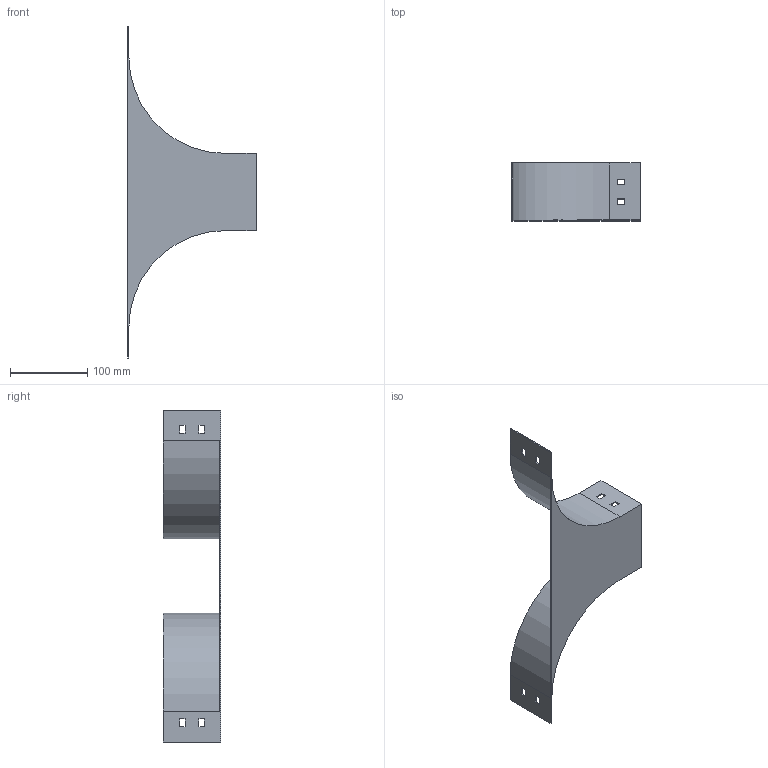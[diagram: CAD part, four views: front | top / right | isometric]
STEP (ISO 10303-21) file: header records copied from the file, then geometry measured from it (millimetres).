
FILE_DESCRIPTION (( 'STEP AP214' ), '1' );
FILE_NAME ('RL_107.step', '2025-07-16T09:24:46', ( '' ), ( '' ), 'SwSTEP 2.0', 'SolidWorks 2023', '' );
FILE_SCHEMA (( 'AUTOMOTIVE_DESIGN' ));
Length unit declared in the file: millimetre
Products named in the file (1): RL_107
Bounding box: 166.5 x 75 x 430 mm (x, y, z)
Volume: 96131.8 mm3; surface area: 130653.3 mm2
Topology: 1 solids, 1 shells, 50 faces, 144 edges, 96 vertices
Faces by surface type: plane 46, cylinder 4
Entity records: 1671 total; most frequent: CARTESIAN_POINT 291, ORIENTED_EDGE 288, DIRECTION 254, EDGE_CURVE 144, LINE 136, VECTOR 136, VERTEX_POINT 96, EDGE_LOOP 66
